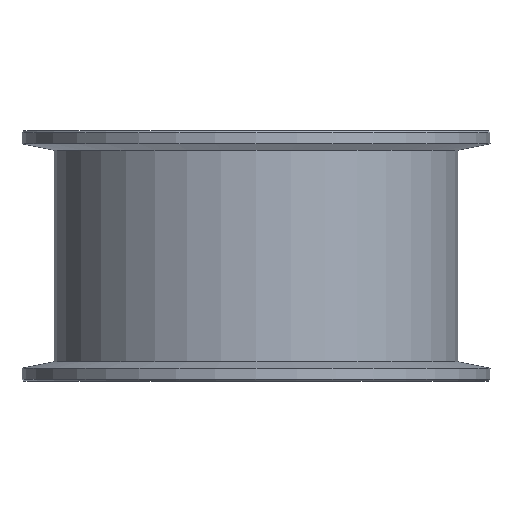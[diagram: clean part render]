
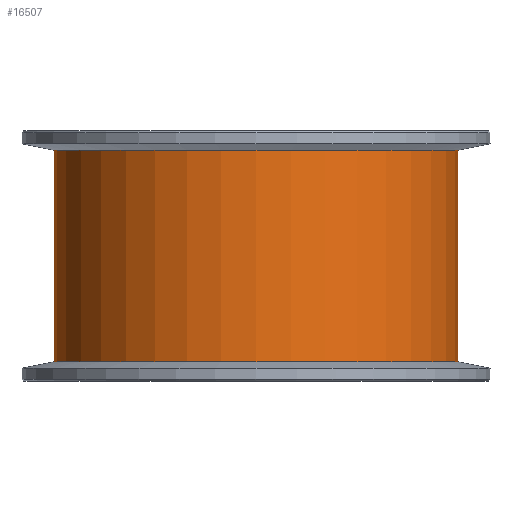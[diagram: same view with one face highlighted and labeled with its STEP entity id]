
A CAD part, front view. The second image highlights one B-rep face of the part: STEP entity #16507.
In plain terms, the highlighted cylindrical face has radius 31.5 mm (diameter 63 mm), a partial arc.
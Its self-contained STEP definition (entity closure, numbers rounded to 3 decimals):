
#530 = ORIENTED_EDGE ( 'NONE', *, *, #14685, .F. ) ;
#773 = LINE ( 'NONE', #9112, #13775 ) ;
#801 = ORIENTED_EDGE ( 'NONE', *, *, #12770, .T. ) ;
#2219 = DIRECTION ( 'NONE',  ( 0., 0., 1. ) ) ;
#2321 = CIRCLE ( 'NONE', #10781, 31.5 ) ;
#3881 = DIRECTION ( 'NONE',  ( 1., 0., 0. ) ) ;
#4589 = ORIENTED_EDGE ( 'NONE', *, *, #7799, .F. ) ;
#4636 = DIRECTION ( 'NONE',  ( 1., 0., 0. ) ) ;
#5236 = VERTEX_POINT ( 'NONE', #6788 ) ;
#5357 = FACE_OUTER_BOUND ( 'NONE', #10895, .T. ) ;
#6088 = CARTESIAN_POINT ( 'NONE',  ( -19.386, 18.726, -18.992 ) ) ;
#6151 = CARTESIAN_POINT ( 'NONE',  ( 12.114, 18.726, -18.992 ) ) ;
#6350 = CARTESIAN_POINT ( 'NONE',  ( -50.886, 18.726, 14.008 ) ) ;
#6687 = VERTEX_POINT ( 'NONE', #10658 ) ;
#6788 = CARTESIAN_POINT ( 'NONE',  ( -50.886, 18.726, -18.992 ) ) ;
#7500 = LINE ( 'NONE', #6151, #8265 ) ;
#7597 = DIRECTION ( 'NONE',  ( 0., 0., 1. ) ) ;
#7799 = EDGE_CURVE ( 'NONE', #5236, #16422, #773, .T. ) ;
#8265 = VECTOR ( 'NONE', #7597, 1000. ) ;
#8331 = ORIENTED_EDGE ( 'NONE', *, *, #17498, .T. ) ;
#8657 = DIRECTION ( 'NONE',  ( 0., 0., 1. ) ) ;
#9112 = CARTESIAN_POINT ( 'NONE',  ( -50.886, 18.726, -18.992 ) ) ;
#9195 = CYLINDRICAL_SURFACE ( 'NONE', #10242, 31.5 ) ;
#9268 = VERTEX_POINT ( 'NONE', #17667 ) ;
#9891 = DIRECTION ( 'NONE',  ( 1., 0., 0. ) ) ;
#10242 = AXIS2_PLACEMENT_3D ( 'NONE', #14726, #13345, #3881 ) ;
#10658 = CARTESIAN_POINT ( 'NONE',  ( 12.114, 18.726, -18.992 ) ) ;
#10781 = AXIS2_PLACEMENT_3D ( 'NONE', #13987, #12708, #9891 ) ;
#10895 = EDGE_LOOP ( 'NONE', ( #4589, #801, #8331, #530 ) ) ;
#11602 = CIRCLE ( 'NONE', #15398, 31.5 ) ;
#12708 = DIRECTION ( 'NONE',  ( 0., 0., 1. ) ) ;
#12770 = EDGE_CURVE ( 'NONE', #5236, #6687, #11602, .T. ) ;
#13345 = DIRECTION ( 'NONE',  ( 0., 0., 1. ) ) ;
#13775 = VECTOR ( 'NONE', #2219, 1000. ) ;
#13987 = CARTESIAN_POINT ( 'NONE',  ( -19.386, 18.726, 14.008 ) ) ;
#14685 = EDGE_CURVE ( 'NONE', #16422, #9268, #2321, .T. ) ;
#14726 = CARTESIAN_POINT ( 'NONE',  ( -19.386, 18.726, -18.992 ) ) ;
#15398 = AXIS2_PLACEMENT_3D ( 'NONE', #6088, #8657, #4636 ) ;
#16422 = VERTEX_POINT ( 'NONE', #6350 ) ;
#16507 = ADVANCED_FACE ( 'NONE', ( #5357 ), #9195, .T. ) ;
#17498 = EDGE_CURVE ( 'NONE', #6687, #9268, #7500, .T. ) ;
#17667 = CARTESIAN_POINT ( 'NONE',  ( 12.114, 18.726, 14.008 ) ) ;
